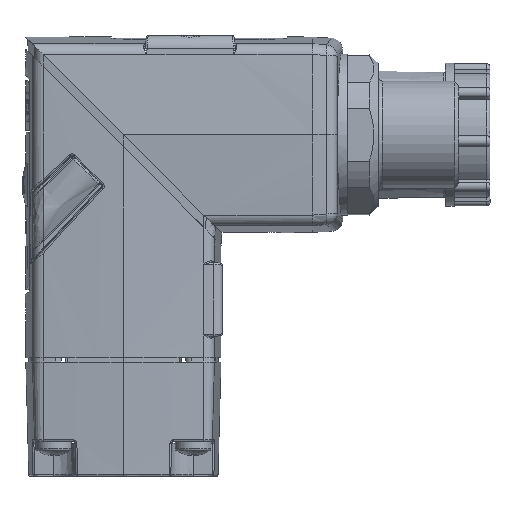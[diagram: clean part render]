
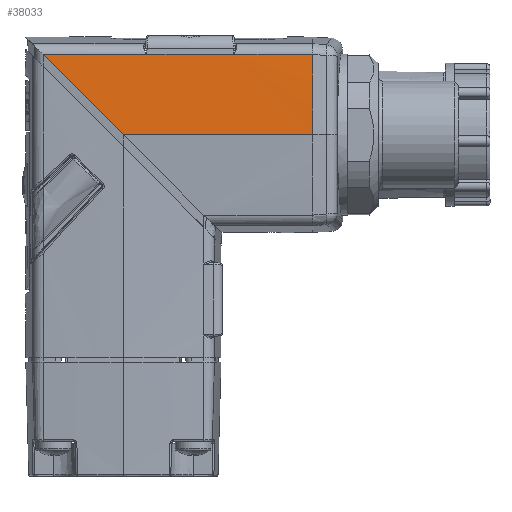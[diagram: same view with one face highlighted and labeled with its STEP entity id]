
A CAD part, left-side view. The second image highlights one B-rep face of the part: STEP entity #38033.
In plain terms, the highlighted cylindrical face has radius 195.5 mm (diameter 391 mm), a partial arc.
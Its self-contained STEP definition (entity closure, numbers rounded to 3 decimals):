
#2708 = DIRECTION ( 'NONE',  ( 0., -1., 0. ) ) ;
#2834 = CIRCLE ( 'NONE', #35072, 195.5 ) ;
#3833 = EDGE_CURVE ( 'NONE', #17797, #18039, #4292, .T. ) ;
#4292 = B_SPLINE_CURVE_WITH_KNOTS ( 'NONE', 3,
 ( #40601, #5593, #20358, #10561, #45662, #15579, #50744 ),
 .UNSPECIFIED., .F., .F.,
 ( 4, 3, 4 ),
 ( 0., 0., 0. ),
 .UNSPECIFIED. ) ;
#5593 = CARTESIAN_POINT ( 'NONE',  ( -20.679, -12.336, 33.922 ) ) ;
#6396 =( BOUNDED_CURVE ( )  B_SPLINE_CURVE ( 3, ( #53053, #58136, #38054, #8093 ),
 .UNSPECIFIED., .F., .F. ) 
 B_SPLINE_CURVE_WITH_KNOTS ( ( 4, 4 ),
 ( 4.747, 4.793 ),
 .UNSPECIFIED. ) 
 CURVE ( )  GEOMETRIC_REPRESENTATION_ITEM ( )  RATIONAL_B_SPLINE_CURVE ( ( 1., 1., 1., 1. ) ) 
 REPRESENTATION_ITEM ( '' )  );
#7181 = CARTESIAN_POINT ( 'NONE',  ( -20.679, -12.346, 33.926 ) ) ;
#8093 = CARTESIAN_POINT ( 'NONE',  ( -20.679, 8.989, 33.926 ) ) ;
#8752 = CARTESIAN_POINT ( 'NONE',  ( -20.679, -21.178, 33.926 ) ) ;
#9620 = CARTESIAN_POINT ( 'NONE',  ( -20.679, -2.616, 33.923 ) ) ;
#9825 = VECTOR ( 'NONE', #15365, 1000. ) ;
#10361 = CARTESIAN_POINT ( 'NONE',  ( -21.2, -23.778, 24.937 ) ) ;
#10561 = CARTESIAN_POINT ( 'NONE',  ( -20.679, -12.34, 33.923 ) ) ;
#11103 = CARTESIAN_POINT ( 'NONE',  ( -20.679, -23.778, 33.926 ) ) ;
#11133 = VECTOR ( 'NONE', #2708, 1000. ) ;
#12326 = LINE ( 'NONE', #11103, #37418 ) ;
#14606 = CARTESIAN_POINT ( 'NONE',  ( -20.679, -2.62, 33.922 ) ) ;
#15365 = DIRECTION ( 'NONE',  ( 0., 1., 0. ) ) ;
#15579 = CARTESIAN_POINT ( 'NONE',  ( -20.679, -12.344, 33.925 ) ) ;
#17797 = VERTEX_POINT ( 'NONE', #56141 ) ;
#18039 = VERTEX_POINT ( 'NONE', #7181 ) ;
#18200 = ORIENTED_EDGE ( 'NONE', *, *, #39399, .T. ) ;
#19289 = EDGE_CURVE ( 'NONE', #18039, #45109, #39442, .T. ) ;
#19519 = VERTEX_POINT ( 'NONE', #62211 ) ;
#20022 = VERTEX_POINT ( 'NONE', #57954 ) ;
#20358 = CARTESIAN_POINT ( 'NONE',  ( -20.679, -12.338, 33.922 ) ) ;
#20540 = DIRECTION ( 'NONE',  ( 0., 1., 0. ) ) ;
#21065 = DIRECTION ( 'NONE',  ( 0., 1., 0. ) ) ;
#21190 = ORIENTED_EDGE ( 'NONE', *, *, #3833, .F. ) ;
#21280 = DIRECTION ( 'NONE',  ( -1., 0., 0. ) ) ;
#21488 = LINE ( 'NONE', #10361, #9825 ) ;
#21710 = ORIENTED_EDGE ( 'NONE', *, *, #19289, .F. ) ;
#22207 = VERTEX_POINT ( 'NONE', #34467 ) ;
#23757 = EDGE_CURVE ( 'NONE', #20022, #22207, #6396, .T. ) ;
#28215 = AXIS2_PLACEMENT_3D ( 'NONE', #31119, #21065, #21280 ) ;
#29320 = EDGE_CURVE ( 'NONE', #42274, #19519, #34021, .T. ) ;
#31119 = CARTESIAN_POINT ( 'NONE',  ( 174.181, -23.778, 18.114 ) ) ;
#31232 = ORIENTED_EDGE ( 'NONE', *, *, #23757, .F. ) ;
#32505 = CARTESIAN_POINT ( 'NONE',  ( -20.679, -23.778, 33.922 ) ) ;
#32643 = ORIENTED_EDGE ( 'NONE', *, *, #38465, .F. ) ;
#33835 = EDGE_CURVE ( 'NONE', #19519, #17797, #49626, .T. ) ;
#34021 = B_SPLINE_CURVE_WITH_KNOTS ( 'NONE', 3,
 ( #59678, #64754, #39631, #9620, #44692, #14606, #49776 ),
 .UNSPECIFIED., .F., .F.,
 ( 4, 3, 4 ),
 ( 0., 0., 0. ),
 .UNSPECIFIED. ) ;
#34467 = CARTESIAN_POINT ( 'NONE',  ( -20.679, 8.989, 33.926 ) ) ;
#35072 = AXIS2_PLACEMENT_3D ( 'NONE', #50700, #20540, #55768 ) ;
#37418 = VECTOR ( 'NONE', #45990, 1000. ) ;
#37839 = VECTOR ( 'NONE', #41057, 1000. ) ;
#38033 = ADVANCED_FACE ( 'NONE', ( #57995 ), #65071, .T. ) ;
#38054 = CARTESIAN_POINT ( 'NONE',  ( -20.921, 5.997, 30.934 ) ) ;
#38146 = CARTESIAN_POINT ( 'NONE',  ( -20.679, -2.609, 33.926 ) ) ;
#38465 = EDGE_CURVE ( 'NONE', #22207, #42274, #12326, .T. ) ;
#39399 = EDGE_CURVE ( 'NONE', #60599, #45109, #2834, .T. ) ;
#39442 = LINE ( 'NONE', #56044, #37839 ) ;
#39631 = CARTESIAN_POINT ( 'NONE',  ( -20.679, -2.613, 33.924 ) ) ;
#40601 = CARTESIAN_POINT ( 'NONE',  ( -20.679, -12.333, 33.922 ) ) ;
#41057 = DIRECTION ( 'NONE',  ( 0., -1., 0. ) ) ;
#42274 = VERTEX_POINT ( 'NONE', #38146 ) ;
#43480 = ORIENTED_EDGE ( 'NONE', *, *, #29320, .F. ) ;
#44692 = CARTESIAN_POINT ( 'NONE',  ( -20.679, -2.618, 33.922 ) ) ;
#45109 = VERTEX_POINT ( 'NONE', #8752 ) ;
#45662 = CARTESIAN_POINT ( 'NONE',  ( -20.679, -12.342, 33.924 ) ) ;
#45990 = DIRECTION ( 'NONE',  ( 0., -1., 0. ) ) ;
#49626 = LINE ( 'NONE', #32505, #11133 ) ;
#49776 = CARTESIAN_POINT ( 'NONE',  ( -20.679, -2.622, 33.922 ) ) ;
#50291 = CARTESIAN_POINT ( 'NONE',  ( -21.2, -21.178, 24.937 ) ) ;
#50700 = CARTESIAN_POINT ( 'NONE',  ( 174.181, -21.178, 18.114 ) ) ;
#50744 = CARTESIAN_POINT ( 'NONE',  ( -20.679, -12.346, 33.926 ) ) ;
#50793 = ORIENTED_EDGE ( 'NONE', *, *, #33835, .F. ) ;
#53053 = CARTESIAN_POINT ( 'NONE',  ( -21.2, 0., 24.937 ) ) ;
#55768 = DIRECTION ( 'NONE',  ( 1., 0., 0. ) ) ;
#55971 = ORIENTED_EDGE ( 'NONE', *, *, #58244, .F. ) ;
#56044 = CARTESIAN_POINT ( 'NONE',  ( -20.679, -23.778, 33.926 ) ) ;
#56141 = CARTESIAN_POINT ( 'NONE',  ( -20.679, -12.333, 33.922 ) ) ;
#57516 = EDGE_LOOP ( 'NONE', ( #50793, #43480, #32643, #31232, #55971, #18200, #21710, #21190 ) ) ;
#57954 = CARTESIAN_POINT ( 'NONE',  ( -21.2, 0., 24.937 ) ) ;
#57995 = FACE_OUTER_BOUND ( 'NONE', #57516, .T. ) ;
#58136 = CARTESIAN_POINT ( 'NONE',  ( -21.095, 3., 27.937 ) ) ;
#58244 = EDGE_CURVE ( 'NONE', #60599, #20022, #21488, .T. ) ;
#59678 = CARTESIAN_POINT ( 'NONE',  ( -20.679, -2.609, 33.926 ) ) ;
#60599 = VERTEX_POINT ( 'NONE', #50291 ) ;
#62211 = CARTESIAN_POINT ( 'NONE',  ( -20.679, -2.622, 33.922 ) ) ;
#64754 = CARTESIAN_POINT ( 'NONE',  ( -20.679, -2.611, 33.925 ) ) ;
#65071 = CYLINDRICAL_SURFACE ( 'NONE', #28215, 195.5 ) ;
